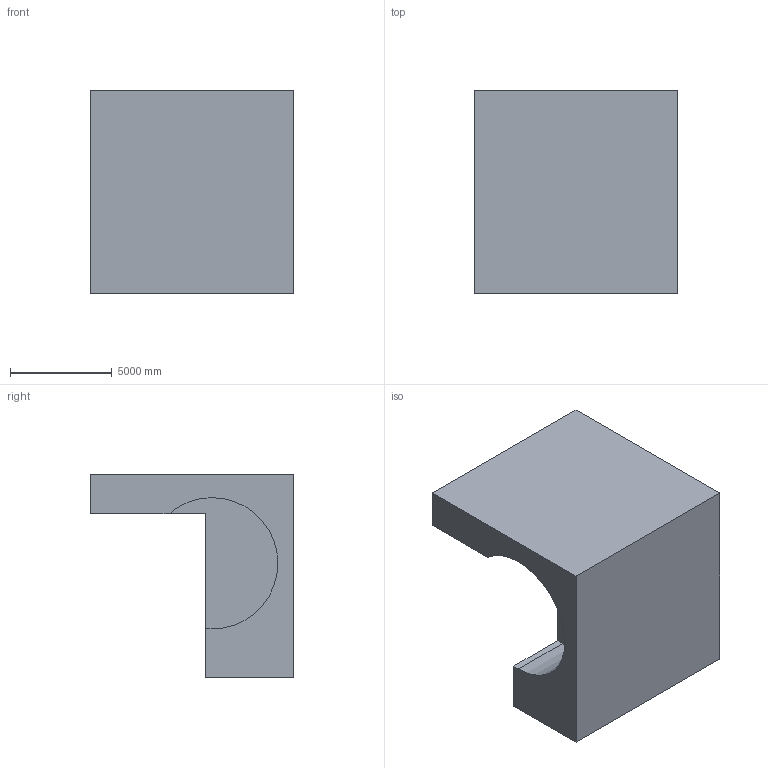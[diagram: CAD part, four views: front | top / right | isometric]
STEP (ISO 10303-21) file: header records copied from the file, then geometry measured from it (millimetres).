
FILE_DESCRIPTION (( 'STEP AP203' ), '1' );
FILE_NAME ('87.STEP', '2022-07-28T13:35:01', ( 'user' ), ( '' ), 'SwSTEP 2.0', 'SolidWorks 2021', '' );
FILE_SCHEMA (( 'CONFIG_CONTROL_DESIGN' ));
Length unit declared in the file: centimetre
Products named in the file (1): 87
Bounding box: 10000 x 10000 x 10000 mm (x, y, z)
Volume: 483915047456.2 mm3; surface area: 524935647.1 mm2
Topology: 1 solids, 1 shells, 12 faces, 30 edges, 20 vertices
Faces by surface type: plane 9, cylinder 3
Entity records: 437 total; most frequent: CARTESIAN_POINT 63, DIRECTION 62, ORIENTED_EDGE 60, EDGE_CURVE 30, LINE 24, VECTOR 24, VERTEX_POINT 20, AXIS2_PLACEMENT_3D 19
